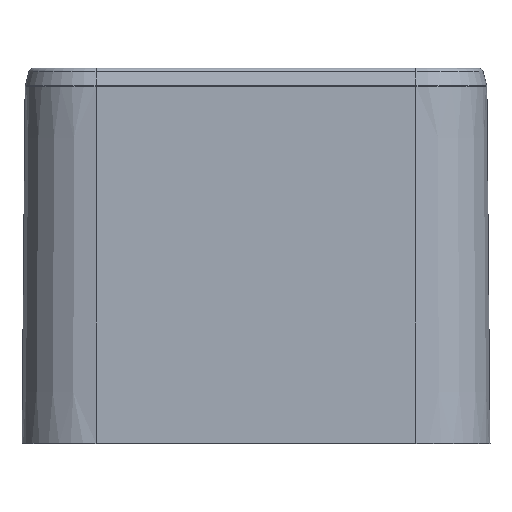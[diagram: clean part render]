
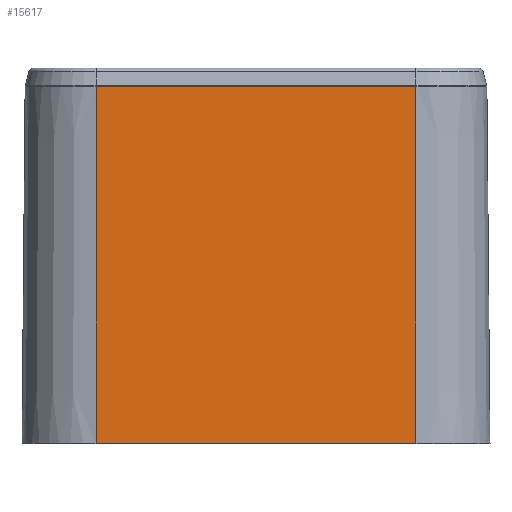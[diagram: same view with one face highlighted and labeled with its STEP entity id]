
A CAD part, top view. The second image highlights one B-rep face of the part: STEP entity #15617.
In plain terms, the highlighted planar face has unit normal (0, 0.009, 1).
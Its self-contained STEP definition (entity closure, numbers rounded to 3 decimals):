
#15578=CARTESIAN_POINT('Axis2P3D Location',(0.,17.5,8.25)) ;
#15583=CARTESIAN_POINT('Line Origine',(-9.,9.05,8.324)) ;
#15587=CARTESIAN_POINT('Vertex',(-9.,-1.5,8.416)) ;
#15589=CARTESIAN_POINT('Vertex',(-9.,18.57,8.241)) ;
#15592=CARTESIAN_POINT('Line Origine',(-4.5,-1.5,8.416)) ;
#15596=CARTESIAN_POINT('Vertex',(9.,-1.5,8.416)) ;
#15599=CARTESIAN_POINT('Line Origine',(9.,9.05,8.324)) ;
#15603=CARTESIAN_POINT('Vertex',(9.,18.57,8.241)) ;
#15606=CARTESIAN_POINT('Line Origine',(-4.5,18.57,8.241)) ;
#15585=VECTOR('Line Direction',#15584,1.) ;
#15594=VECTOR('Line Direction',#15593,1.) ;
#15601=VECTOR('Line Direction',#15600,1.) ;
#15608=VECTOR('Line Direction',#15607,1.) ;
#15579=DIRECTION('Axis2P3D Direction',(0.,0.009,1.)) ;
#15580=DIRECTION('Axis2P3D XDirection',(-1.,0.,0.)) ;
#15584=DIRECTION('Vector Direction',(0.,-1.,0.009)) ;
#15593=DIRECTION('Vector Direction',(-1.,0.,0.)) ;
#15600=DIRECTION('Vector Direction',(0.,-1.,0.009)) ;
#15607=DIRECTION('Vector Direction',(-1.,0.,0.)) ;
#15581=AXIS2_PLACEMENT_3D('Plane Axis2P3D',#15578,#15579,#15580) ;
#15586=LINE('Line',#15583,#15585) ;
#15595=LINE('Line',#15592,#15594) ;
#15602=LINE('Line',#15599,#15601) ;
#15609=LINE('Line',#15606,#15608) ;
#15582=PLANE('',#15581) ;
#15591=EDGE_CURVE('',#15588,#15590,#15586,.F.) ;
#15598=EDGE_CURVE('',#15597,#15588,#15595,.T.) ;
#15605=EDGE_CURVE('',#15597,#15604,#15602,.F.) ;
#15610=EDGE_CURVE('',#15590,#15604,#15609,.F.) ;
#15612=ORIENTED_EDGE('',*,*,#15591,.F.) ;
#15613=ORIENTED_EDGE('',*,*,#15598,.F.) ;
#15614=ORIENTED_EDGE('',*,*,#15605,.T.) ;
#15615=ORIENTED_EDGE('',*,*,#15610,.F.) ;
#15611=EDGE_LOOP('',(#15612,#15613,#15614,#15615)) ;
#15588=VERTEX_POINT('',#15587) ;
#15590=VERTEX_POINT('',#15589) ;
#15597=VERTEX_POINT('',#15596) ;
#15604=VERTEX_POINT('',#15603) ;
#15617=ADVANCED_FACE('4P LP 2P HP INTEFACE - KEY A',(#15616),#15582,.T.) ;
#15616=FACE_OUTER_BOUND('',#15611,.T.) ;
